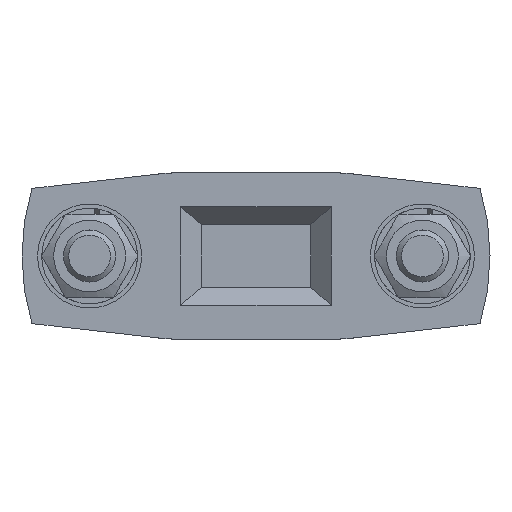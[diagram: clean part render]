
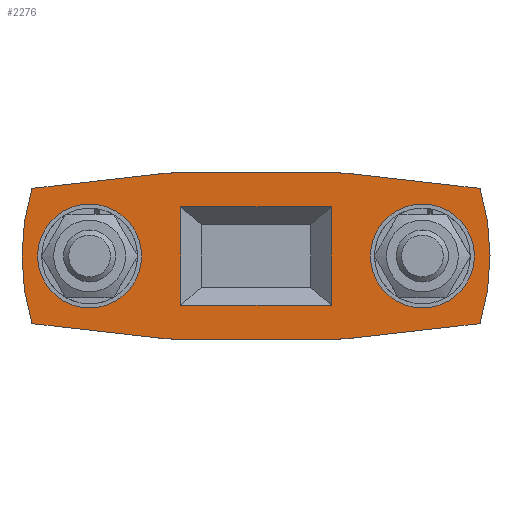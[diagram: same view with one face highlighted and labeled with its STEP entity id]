
A CAD part, front view. The second image highlights one B-rep face of the part: STEP entity #2276.
In plain terms, the highlighted planar face has unit normal (0, -1, 0).
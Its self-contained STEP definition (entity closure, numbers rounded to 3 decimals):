
#111=LINE('',#3608,#259);
#112=LINE('',#3610,#260);
#113=LINE('',#3612,#261);
#114=LINE('',#3613,#262);
#115=LINE('',#3615,#263);
#116=LINE('',#3619,#264);
#117=LINE('',#3623,#265);
#118=LINE('',#3627,#266);
#119=LINE('',#3631,#267);
#120=LINE('',#3634,#268);
#259=VECTOR('',#2882,14.5);
#260=VECTOR('',#2883,9.5);
#261=VECTOR('',#2884,14.5);
#262=VECTOR('',#2885,9.5);
#263=VECTOR('',#2886,14.479);
#264=VECTOR('',#2889,12.115);
#265=VECTOR('',#2892,12.115);
#266=VECTOR('',#2895,14.479);
#267=VECTOR('',#2898,12.115);
#268=VECTOR('',#2901,12.115);
#415=PLANE('',#2475);
#525=FACE_BOUND('',#780,.T.);
#526=FACE_BOUND('',#781,.T.);
#527=FACE_BOUND('',#782,.T.);
#528=FACE_BOUND('',#783,.T.);
#780=EDGE_LOOP('',(#1718));
#781=EDGE_LOOP('',(#1719));
#782=EDGE_LOOP('',(#1720,#1721,#1722,#1723));
#783=EDGE_LOOP('',(#1724,#1725,#1726,#1727,#1728,#1729,#1730,#1731,#1732,
#1733,#1734,#1735));
#905=CIRCLE('',#2473,20.);
#907=CIRCLE('',#2476,5.);
#908=CIRCLE('',#2477,5.);
#909=CIRCLE('',#2478,20.);
#910=CIRCLE('',#2479,22.5);
#911=CIRCLE('',#2480,20.);
#912=CIRCLE('',#2481,20.);
#913=CIRCLE('',#2482,22.5);
#1057=VERTEX_POINT('',#3594);
#1058=VERTEX_POINT('',#3596);
#1060=VERTEX_POINT('',#3602);
#1061=VERTEX_POINT('',#3604);
#1062=VERTEX_POINT('',#3606);
#1063=VERTEX_POINT('',#3607);
#1064=VERTEX_POINT('',#3609);
#1065=VERTEX_POINT('',#3611);
#1066=VERTEX_POINT('',#3614);
#1067=VERTEX_POINT('',#3616);
#1068=VERTEX_POINT('',#3618);
#1069=VERTEX_POINT('',#3620);
#1070=VERTEX_POINT('',#3622);
#1071=VERTEX_POINT('',#3624);
#1072=VERTEX_POINT('',#3626);
#1073=VERTEX_POINT('',#3628);
#1074=VERTEX_POINT('',#3630);
#1075=VERTEX_POINT('',#3632);
#1299=EDGE_CURVE('',#1057,#1058,#905,.T.);
#1302=EDGE_CURVE('',#1060,#1060,#907,.T.);
#1303=EDGE_CURVE('',#1061,#1061,#908,.T.);
#1304=EDGE_CURVE('',#1062,#1063,#111,.T.);
#1305=EDGE_CURVE('',#1063,#1064,#112,.T.);
#1306=EDGE_CURVE('',#1064,#1065,#113,.T.);
#1307=EDGE_CURVE('',#1065,#1062,#114,.T.);
#1308=EDGE_CURVE('',#1057,#1066,#115,.T.);
#1309=EDGE_CURVE('',#1067,#1066,#909,.T.);
#1310=EDGE_CURVE('',#1067,#1068,#116,.T.);
#1311=EDGE_CURVE('',#1068,#1069,#910,.T.);
#1312=EDGE_CURVE('',#1069,#1070,#117,.T.);
#1313=EDGE_CURVE('',#1071,#1070,#911,.T.);
#1314=EDGE_CURVE('',#1071,#1072,#118,.T.);
#1315=EDGE_CURVE('',#1073,#1072,#912,.T.);
#1316=EDGE_CURVE('',#1073,#1074,#119,.T.);
#1317=EDGE_CURVE('',#1074,#1075,#913,.T.);
#1318=EDGE_CURVE('',#1075,#1058,#120,.T.);
#1718=ORIENTED_EDGE('',*,*,#1302,.T.);
#1719=ORIENTED_EDGE('',*,*,#1303,.T.);
#1720=ORIENTED_EDGE('',*,*,#1304,.T.);
#1721=ORIENTED_EDGE('',*,*,#1305,.T.);
#1722=ORIENTED_EDGE('',*,*,#1306,.T.);
#1723=ORIENTED_EDGE('',*,*,#1307,.T.);
#1724=ORIENTED_EDGE('',*,*,#1299,.F.);
#1725=ORIENTED_EDGE('',*,*,#1308,.T.);
#1726=ORIENTED_EDGE('',*,*,#1309,.F.);
#1727=ORIENTED_EDGE('',*,*,#1310,.T.);
#1728=ORIENTED_EDGE('',*,*,#1311,.T.);
#1729=ORIENTED_EDGE('',*,*,#1312,.T.);
#1730=ORIENTED_EDGE('',*,*,#1313,.F.);
#1731=ORIENTED_EDGE('',*,*,#1314,.T.);
#1732=ORIENTED_EDGE('',*,*,#1315,.F.);
#1733=ORIENTED_EDGE('',*,*,#1316,.T.);
#1734=ORIENTED_EDGE('',*,*,#1317,.T.);
#1735=ORIENTED_EDGE('',*,*,#1318,.T.);
#2276=ADVANCED_FACE('',(#525,#526,#527,#528),#415,.T.);
#2473=AXIS2_PLACEMENT_3D('',#3597,#2871,#2872);
#2475=AXIS2_PLACEMENT_3D('',#3601,#2876,#2877);
#2476=AXIS2_PLACEMENT_3D('',#3603,#2878,#2879);
#2477=AXIS2_PLACEMENT_3D('',#3605,#2880,#2881);
#2478=AXIS2_PLACEMENT_3D('',#3617,#2887,#2888);
#2479=AXIS2_PLACEMENT_3D('',#3621,#2890,#2891);
#2480=AXIS2_PLACEMENT_3D('',#3625,#2893,#2894);
#2481=AXIS2_PLACEMENT_3D('',#3629,#2896,#2897);
#2482=AXIS2_PLACEMENT_3D('',#3633,#2899,#2900);
#2871=DIRECTION('center_axis',(0.,1.,0.));
#2872=DIRECTION('ref_axis',(0.057,0.,0.998));
#2876=DIRECTION('center_axis',(0.,-1.,0.));
#2877=DIRECTION('ref_axis',(0.,0.,-1.));
#2878=DIRECTION('center_axis',(0.,1.,0.));
#2879=DIRECTION('ref_axis',(-1.,0.,0.));
#2880=DIRECTION('center_axis',(0.,1.,0.));
#2881=DIRECTION('ref_axis',(-1.,0.,0.));
#2882=DIRECTION('',(1.,0.,0.));
#2883=DIRECTION('',(0.,0.,-1.));
#2884=DIRECTION('',(-1.,0.,0.));
#2885=DIRECTION('',(0.,0.,1.));
#2886=DIRECTION('',(-1.,0.,0.));
#2887=DIRECTION('center_axis',(0.,1.,0.));
#2888=DIRECTION('ref_axis',(-0.057,0.,0.998));
#2889=DIRECTION('',(-0.994,0.,-0.113));
#2890=DIRECTION('center_axis',(0.,-1.,0.));
#2891=DIRECTION('ref_axis',(-0.935,0.,0.356));
#2892=DIRECTION('',(0.994,0.,-0.113));
#2893=DIRECTION('center_axis',(0.,1.,0.));
#2894=DIRECTION('ref_axis',(-0.057,0.,-0.998));
#2895=DIRECTION('',(1.,0.,0.));
#2896=DIRECTION('center_axis',(0.,1.,0.));
#2897=DIRECTION('ref_axis',(0.057,0.,-0.998));
#2898=DIRECTION('',(0.994,0.,0.113));
#2899=DIRECTION('center_axis',(0.,-1.,0.));
#2900=DIRECTION('ref_axis',(0.935,0.,-0.356));
#2901=DIRECTION('',(-0.994,0.,0.113));
#3594=CARTESIAN_POINT('',(17.202,-15.719,-24.327));
#3596=CARTESIAN_POINT('',(19.466,-15.719,-24.455));
#3597=CARTESIAN_POINT('Origin',(17.202,-15.719,-44.327));
#3601=CARTESIAN_POINT('Origin',(9.962,-15.719,-32.327));
#3602=CARTESIAN_POINT('',(30.962,-15.719,-32.327));
#3603=CARTESIAN_POINT('Origin',(25.962,-15.719,-32.327));
#3604=CARTESIAN_POINT('',(-1.038,-15.719,-32.327));
#3605=CARTESIAN_POINT('Origin',(-6.038,-15.719,-32.327));
#3606=CARTESIAN_POINT('',(2.712,-15.719,-27.577));
#3607=CARTESIAN_POINT('',(17.212,-15.719,-27.577));
#3608=CARTESIAN_POINT('',(7.337,-15.719,-27.577));
#3609=CARTESIAN_POINT('',(17.212,-15.719,-37.077));
#3610=CARTESIAN_POINT('',(17.212,-15.719,-30.827));
#3611=CARTESIAN_POINT('',(2.712,-15.719,-37.077));
#3612=CARTESIAN_POINT('',(12.587,-15.719,-37.077));
#3613=CARTESIAN_POINT('',(2.712,-15.719,-33.827));
#3614=CARTESIAN_POINT('',(2.722,-15.719,-24.327));
#3615=CARTESIAN_POINT('',(32.462,-15.719,-24.327));
#3616=CARTESIAN_POINT('',(0.458,-15.719,-24.455));
#3617=CARTESIAN_POINT('Origin',(2.722,-15.719,-44.327));
#3618=CARTESIAN_POINT('',(-11.579,-15.719,-25.827));
#3619=CARTESIAN_POINT('',(5.271,-15.719,-23.907));
#3620=CARTESIAN_POINT('',(-11.579,-15.719,-38.827));
#3621=CARTESIAN_POINT('Origin',(9.962,-15.719,-32.327));
#3622=CARTESIAN_POINT('',(0.458,-15.719,-40.198));
#3623=CARTESIAN_POINT('',(-1.312,-15.719,-39.997));
#3624=CARTESIAN_POINT('',(2.722,-15.719,-40.327));
#3625=CARTESIAN_POINT('Origin',(2.722,-15.719,-20.327));
#3626=CARTESIAN_POINT('',(17.202,-15.719,-40.327));
#3627=CARTESIAN_POINT('',(-12.538,-15.719,-40.327));
#3628=CARTESIAN_POINT('',(19.466,-15.719,-40.198));
#3629=CARTESIAN_POINT('Origin',(17.202,-15.719,-20.327));
#3630=CARTESIAN_POINT('',(31.503,-15.719,-38.827));
#3631=CARTESIAN_POINT('',(14.653,-15.719,-40.747));
#3632=CARTESIAN_POINT('',(31.503,-15.719,-25.827));
#3633=CARTESIAN_POINT('Origin',(9.962,-15.719,-32.327));
#3634=CARTESIAN_POINT('',(21.236,-15.719,-24.657));
